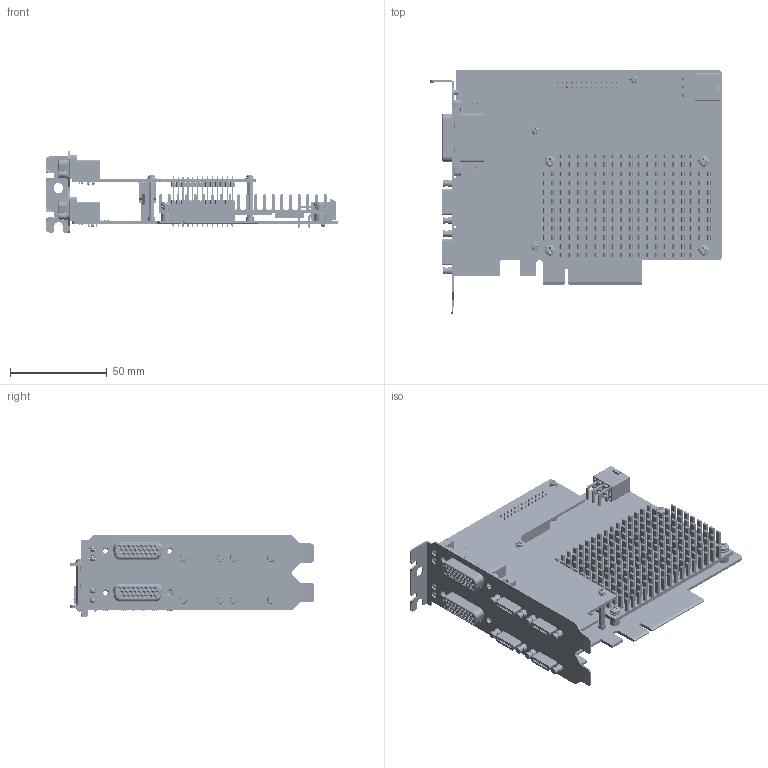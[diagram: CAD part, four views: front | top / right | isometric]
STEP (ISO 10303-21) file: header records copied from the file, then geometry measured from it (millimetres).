
FILE_DESCRIPTION((''),'2;1');
FILE_NAME('0-DH3-RDI000072-0000_SW0001','2024-03-04T11:48:36',('303992'),(''),'CREO PARAMETRIC BY PTC INC, 2020184','CREO PARAMETRIC BY PTC INC, 2020184','');
FILE_SCHEMA(('CONFIG_CONTROL_DESIGN','SHAPE_APPEARANCE_LAYERS_GROUPS'));
Products named in the file (1): 0-DH3-RDI000072-0000_SW0001
Bounding box: 151.09 x 126.27 x 41.92 mm (x, y, z)
Volume: 77784.2 mm3; surface area: 100198.8 mm2
Topology: 5 solids, 7 shells, 12509 faces, 34711 edges, 22615 vertices
Faces by surface type: plane 9763, cylinder 2216, torus 254, cone 190, bspline 60, sphere 26
Entity records: 601110 total; most frequent: CARTESIAN_POINT 103232, ORIENTED_EDGE 69398, DIRECTION 63882, PRESENTATION_STYLE_ASSIGNMENT 43346, STYLED_ITEM 35054, CURVE_STYLE 34699, EDGE_CURVE 34699, VECTOR 28796
